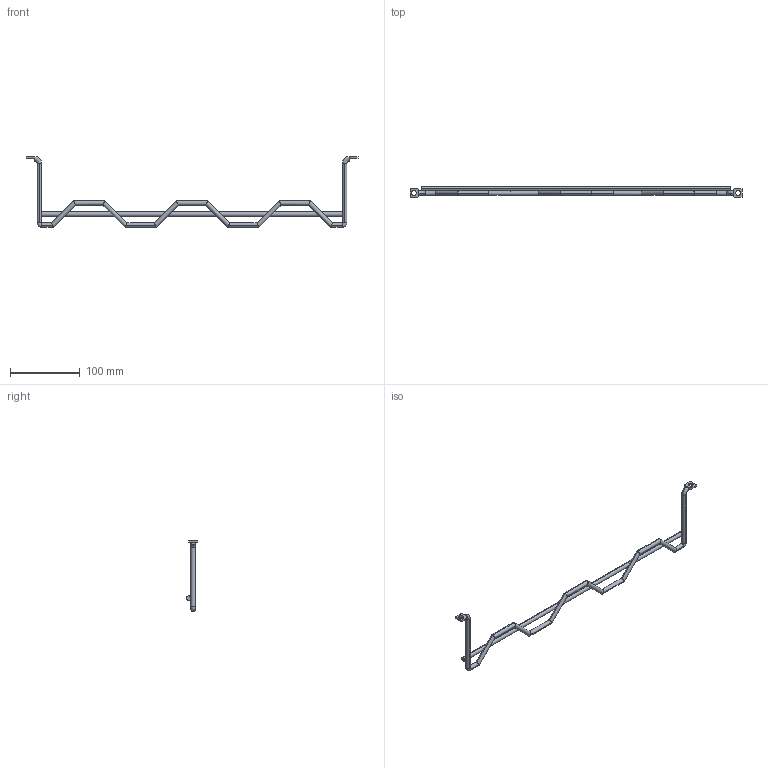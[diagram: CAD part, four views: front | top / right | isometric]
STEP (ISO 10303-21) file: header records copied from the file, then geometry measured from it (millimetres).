
FILE_DESCRIPTION (( 'STEP AP203' ), '1' );
FILE_NAME ('dchb1.STEP', '2020-04-07T14:14:21', ( '' ), ( '' ), 'SwSTEP 2.0', 'SolidWorks 2016', '' );
FILE_SCHEMA (( 'CONFIG_CONTROL_DESIGN' ));
Length unit declared in the file: inch
Products named in the file (2): dchb1; 87928732
Assembly tree (1 placements, depth 2):
  dchb1
    87928732
Bounding box: 476.25 x 15.88 x 101.6 mm (x, y, z)
Volume: 37236.7 mm3; surface area: 23986.4 mm2
Topology: 2 solids, 2 shells, 64 faces, 162 edges, 98 vertices
Faces by surface type: cylinder 40, plane 18, torus 6
Entity records: 2084 total; most frequent: CARTESIAN_POINT 432, ORIENTED_EDGE 316, DIRECTION 310, EDGE_CURVE 158, AXIS2_PLACEMENT_3D 120, VERTEX_POINT 98, LINE 70, VECTOR 70
